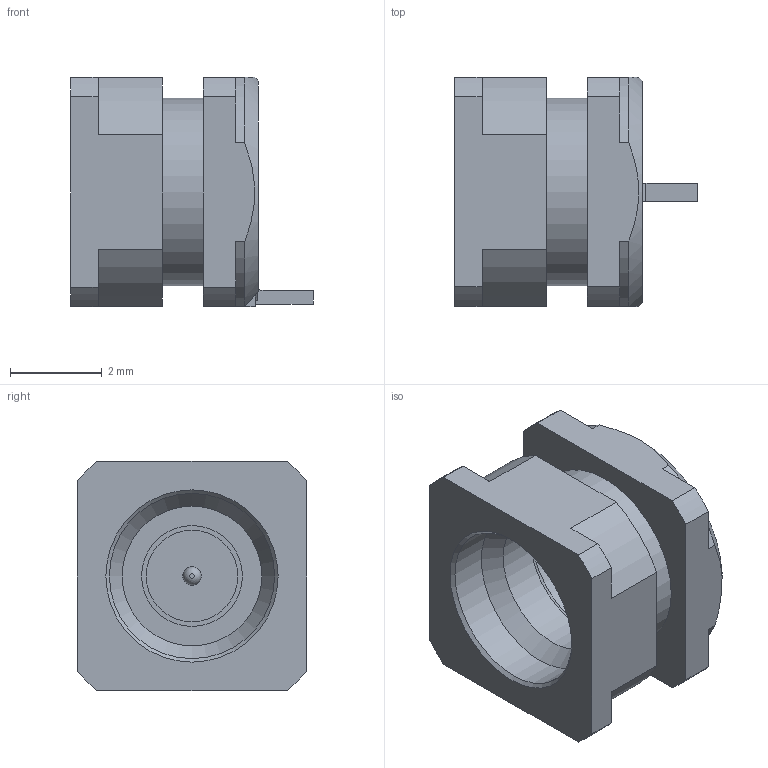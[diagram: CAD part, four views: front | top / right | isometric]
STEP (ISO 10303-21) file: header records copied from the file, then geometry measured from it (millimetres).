
FILE_DESCRIPTION(/* description */ (''),/* implementation_level */ '2;1');
FILE_NAME(/* name */ '734066061wbm000_01_214.stp',/* time_stamp */ '2022-11-13T17:05:27+06:00',/* author */ (''),/* organization */ (''),/* preprocessor_version */ 'ST-DEVELOPER v16.7',/* originating_system */ 'SIEMENS PLM Software NX 1919',/* authorisation */ '');
FILE_SCHEMA (('AUTOMOTIVE_DESIGN { 1 0 10303 214 3 1 1 1 }'));
Length unit declared in the file: millimetre
Products named in the file (1): 734066061wbm000_01
Bounding box: 5.3 x 5 x 5 mm (x, y, z)
Volume: 61.2 mm3; surface area: 172.8 mm2
Topology: 1 solids, 1 shells, 75 faces, 203 edges, 136 vertices
Faces by surface type: plane 41, cylinder 29, cone 4, sphere 1
Full cylindrical faces by diameter (mm): 0.4 x1, 3.048 x1, 3.175 x1, 3.607 x1, 4.1 x1
Entity records: 2368 total; most frequent: CARTESIAN_POINT 470, DIRECTION 398, ORIENTED_EDGE 378, EDGE_CURVE 189, AXIS2_PLACEMENT_3D 143, VERTEX_POINT 131, LINE 112, VECTOR 112
